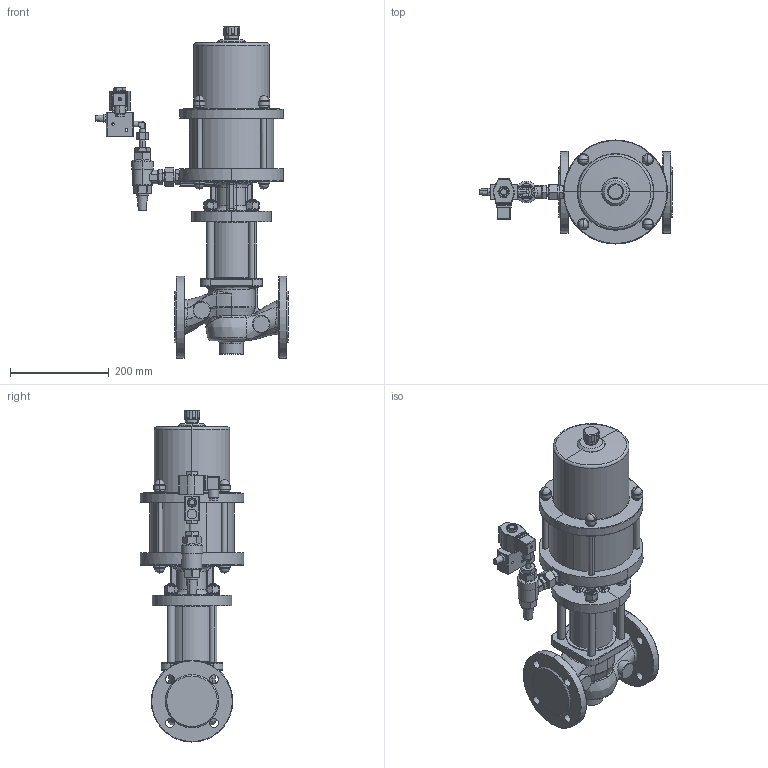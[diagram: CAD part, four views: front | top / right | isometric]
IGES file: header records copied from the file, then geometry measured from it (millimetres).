
Global section: file name: No Iges File Name specified; native system: AutoDesk Inventor R12.0; preprocessor: AutoDesk Inventor Iges Exporter R12.0; date: 20101115.144842; units: millimetre
Bounding box: 389.8 x 210 x 670.85 mm (x, y, z)
Volume: 10556112.5 mm3; surface area: 643800.7 mm2
Topology: 1 solids, 1 shells, 1211 faces, 3050 edges, 1867 vertices
Faces by surface type: plane 390, cylinder 247, bspline 247, cone 149, revolution 79, torus 66, sphere 33
